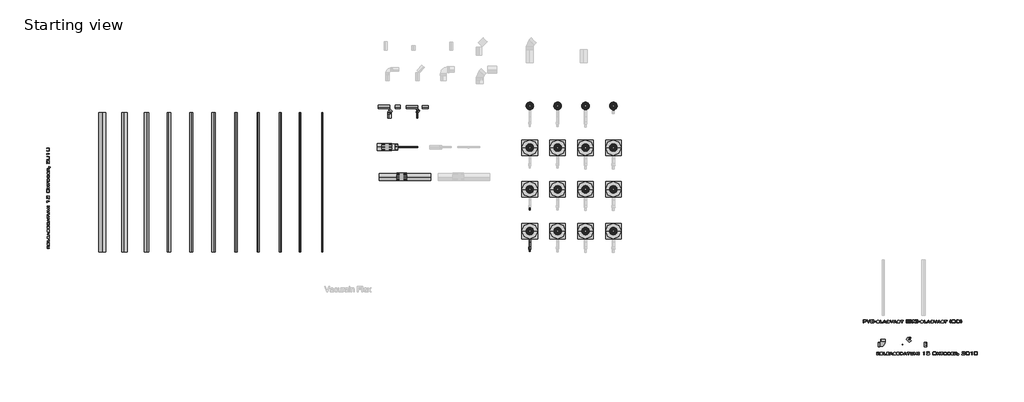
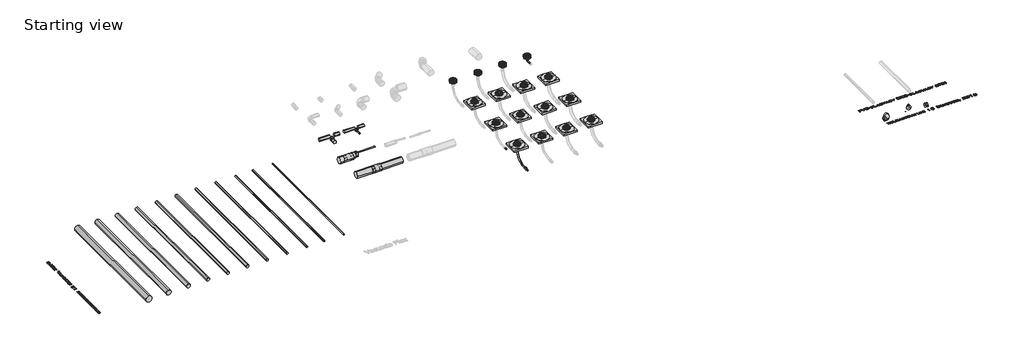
# One storey, part 1 of 3: 25 pipe fittings, 22 pipe segments, 16 sanitary terminals, 4 flow terminals.
"""IFC4 building model written with IfcOpenShell, lengths in millimetres."""

from ifc_helpers import new_model, si_unit, point, frame, frame_2d, origin, place, context, project, spatial, circle_curve, trimmed, segment, composite_curve, outline, extrude, transform, mapped, element, save
from components import flow_terminal_9f99e00c, flow_terminal_27e1411a, flow_terminal_4c22bd95, nested_do_not_use_587135c4, var_4a002968, nested_do_not_use_9b06eb31, nested_do_not_use_2a686885, nested_do_not_use_22d01ddb, nested_do_not_use_a5b8c739, nested_do_not_use_60ab9ebd, nested_do_not_use_eb73af9f, nested_do_not_use_5249c4b3, nested_do_not_use_65d087fa, var_8dcc252d, nested_do_not_use_aba882e9, nested_do_not_use_83d8a7ae, nested_do_not_use_c42076f1, var_65803a14, var_957ecca0, var_add32d6f, var_9cc1c066, var_08b65c3c, nested_do_not_use_e4e1583a, dn40_outlet_50mm_e4824a1d, dn40_outlet_50mm_bcd54826, dn50_outlet_50mm_d0d6c5a2, dn70_outlet_75mm_724d292a

model = new_model("IFC4")

# Units and contexts
model_context = context("Model", 3, world=origin())
ifc_project = project(units=[si_unit("LENGTHUNIT", "METRE", prefix="MILLI")], contexts=[model_context])

# Site, building, storey
site = spatial("IfcSite", under=ifc_project)
building = spatial("IfcBuilding", under=site)
storey = spatial("IfcBuildingStorey", under=building, Name="Starting view", Elevation=0.0)

# Flow terminals
placement = place(None, origin())
flow_terminal_shape = flow_terminal_9f99e00c(model_context)
element("IfcFlowTerminal", 1, ObjectType="ondertitel : PVC Slagvast (OD)", at=placement, inside=storey, context=model_context, shape_type="MappedRepresentation", body=[
    mapped(flow_terminal_shape, transform((21379.1155593, -16805.2403099, 0.0), x_axis=(1.0, 0.0, 0.0), y_axis=(0.0, 1.0, 0.0), z_axis=(0.0, 0.0, 1.0))),
])
flow_terminal_2_shape = flow_terminal_27e1411a(model_context)
element("IfcFlowTerminal", 2, ObjectType="ondertitel : versie", at=placement, inside=storey, context=model_context, shape_type="MappedRepresentation", body=[
    mapped(flow_terminal_2_shape, transform((-9681.3703668, -13814.5792285, 0.0), x_axis=(0.0, 1.0000000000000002, 0.0), y_axis=(-1.0000000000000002, 0.0, 0.0), z_axis=(0.0, 0.0, 1.0))),
])
element("IfcFlowTerminal", 3, ObjectType="ondertitel : versie", at=placement, inside=storey, context=model_context, shape_type="MappedRepresentation", body=[
    mapped(flow_terminal_2_shape, transform((20309.0797924, -17952.0628864, 0.0), x_axis=(1.0, 0.0, 0.0), y_axis=(0.0, 1.0, 0.0), z_axis=(0.0, 0.0, 1.0))),
])
flow_terminal_3_shape = flow_terminal_4c22bd95(model_context)
element("IfcFlowTerminal", 4, ObjectType="ondertitel : PVC Slagvast (DN)", at=placement, inside=storey, context=model_context, shape_type="MappedRepresentation", body=[
    mapped(flow_terminal_3_shape, transform((19809.5993563, -16805.2403099, 0.0), x_axis=(1.0, 0.0, 0.0), y_axis=(0.0, 1.0, 0.0), z_axis=(0.0, 0.0, 1.0))),
])

# Pipe fittings
nested_do_not_use_shape = nested_do_not_use_587135c4(model_context)
element("IfcPipeFitting", 5, ObjectType="NLRS_52_PIF_UN_Vacurain Flex spiebus_SH_Dyka : nested, do not use", at=placement, inside=storey, context=model_context, shape_type="MappedRepresentation", body=[
    mapped(nested_do_not_use_shape, transform((7549.3431339, -12655.1399334, 139.0), x_axis=(0.0, 1.0, 0.0), y_axis=(0.0, 0.0, 1.0), z_axis=(1.0, 0.0, 0.0))),
])
element("IfcPipeFitting", 6, ObjectType="NLRS_52_PIF_UN_Vacurain Flex spiebus_SH_Dyka : nested, do not use", at=placement, inside=storey, context=model_context, shape_type="MappedRepresentation", body=[
    mapped(nested_do_not_use_shape, transform((7549.3431339, -14155.1399334, 139.0), x_axis=(0.0, 1.0, 0.0), y_axis=(0.0, 0.0, 1.0), z_axis=(1.0, 0.0, 0.0))),
])
var_shape = var_4a002968(model_context)
element("IfcPipeFitting", 7, ObjectType="NLRS_52_PIF_UN_Vacurain Flex steekmof_SH_Dyka : nested, do not use", at=placement, inside=storey, context=model_context, shape_type="MappedRepresentation", body=[
    mapped(var_shape, transform((2418.9772962, -10468.7826774, 200.0), x_axis=(1.0, 0.0, 0.0), y_axis=(0.0, 1.0, 0.0), z_axis=(0.0, 0.0, 1.0))),
])
nested_do_not_use_2_shape = nested_do_not_use_9b06eb31(model_context)
element("IfcPipeFitting", 8, ObjectType="NLRS_52_PIF_UN_Vacurain Flex steekmof_SH_Dyka : nested, do not use", at=placement, inside=storey, context=model_context, shape_type="MappedRepresentation", body=[
    mapped(nested_do_not_use_2_shape, transform((7549.3431339, -12697.1399334, 139.0), x_axis=(0.0, 1.0, 0.0), y_axis=(0.0, 0.0, 1.0), z_axis=(1.0, 0.0, 0.0))),
])
element("IfcPipeFitting", 9, ObjectType="NLRS_52_PIF_UN_Vacurain Flex steekmof_SH_Dyka : nested, do not use", at=placement, inside=storey, context=model_context, shape_type="MappedRepresentation", body=[
    mapped(nested_do_not_use_2_shape, transform((7549.3431339, -14197.1399334, 139.0), x_axis=(0.0, 1.0, 0.0), y_axis=(0.0, 0.0, 1.0), z_axis=(1.0, 0.0, 0.0))),
])
nested_do_not_use_3_shape = nested_do_not_use_2a686885(model_context)
element("IfcPipeFitting", 10, ObjectType="NLRS_52_PIF_UN_Vacurain Flex verloop LV_SH_Dyka : nested, do not use", at=placement, inside=storey, context=model_context, shape_type="MappedRepresentation", body=[
    mapped(nested_do_not_use_3_shape, transform((3548.7819135, -9133.4153768, 200.0), x_axis=(0.7071067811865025, 0.7071067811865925, 0.0), y_axis=(-0.7071067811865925, 0.7071067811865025, 0.0), z_axis=(0.0, 0.0, 1.0))),
])
nested_do_not_use_4_shape = nested_do_not_use_22d01ddb(model_context)
element("IfcPipeFitting", 11, ObjectType="NLRS_52_PIF_UN_Vacurain Flex verloop LV_SH_Dyka : nested, do not use", at=placement, inside=storey, context=model_context, shape_type="MappedRepresentation", body=[
    mapped(nested_do_not_use_4_shape, transform((21131.9694851, -17419.1030804, 0.0), x_axis=(-0.7071067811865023, -0.7071067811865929, 0.0), y_axis=(0.707106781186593, -0.7071067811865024, 0.0), z_axis=(0.0, 0.0, 1.0000000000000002))),
])
nested_do_not_use_5_shape = nested_do_not_use_a5b8c739(model_context)
element("IfcPipeFitting", 12, ObjectType="NLRS_52_PIF_UN_Vacurain Flex verloop LV_SH_Dyka : nested, do not use", at=placement, inside=storey, context=model_context, shape_type="MappedRepresentation", body=[
    mapped(nested_do_not_use_5_shape, transform((21735.7625232, -17568.220839, 0.0), x_axis=(-1.0, 0.0, 0.0), y_axis=(0.0, -1.0, 0.0), z_axis=(0.0, 0.0, 1.0))),
])
nested_do_not_use_6_shape = nested_do_not_use_60ab9ebd(model_context)
element("IfcPipeFitting", 13, ObjectType="NLRS_52_PIF_UN_Vacurain Flex verloop LV_SH_Dyka : nested, do not use", at=placement, inside=storey, context=model_context, shape_type="MappedRepresentation", body=[
    mapped(nested_do_not_use_6_shape, transform((2516.4772962, -10468.7826774, 200.0), x_axis=(-1.0, 0.0, 0.0), y_axis=(0.0, -1.0, 0.0), z_axis=(0.0, 0.0, 1.0))),
])
nested_do_not_use_7_shape = nested_do_not_use_eb73af9f(model_context)
element("IfcPipeFitting", 14, ObjectType="NLRS_52_PIF_UN_Vacurain Flex verloop LV_SH_Dyka : nested, do not use", at=placement, inside=storey, context=model_context, shape_type="MappedRepresentation", body=[
    mapped(nested_do_not_use_7_shape, transform((2726.4772962, -10468.7826774, 225.0), x_axis=(-1.0, 0.0, 0.0), y_axis=(0.0, -1.0, 0.0), z_axis=(0.0, 0.0, 1.0))),
])
nested_do_not_use_8_shape = nested_do_not_use_5249c4b3(model_context)
element("IfcPipeFitting", 15, ObjectType="NLRS_52_PIF_UN_Vacurain Flex verloop LV_SH_Dyka : nested, do not use", at=placement, inside=storey, context=model_context, shape_type="MappedRepresentation", body=[
    mapped(nested_do_not_use_8_shape, transform((2757.4772962, -10468.7826774, 292.0), x_axis=(-1.0, 0.0, 0.0), y_axis=(0.0, -1.0, 0.0), z_axis=(0.0, 0.0, 1.0))),
])
nested_do_not_use_9_shape = nested_do_not_use_65d087fa(model_context)
element("IfcPipeFitting", 16, ObjectType="NLRS_52_PIF_UN_Vacurain Flex verloop LV_SH_Dyka : nested, do not use", at=placement, inside=storey, context=model_context, shape_type="MappedRepresentation", body=[
    mapped(nested_do_not_use_9_shape, transform((2742.4772962, -10468.7826774, 282.0), x_axis=(-1.0, 0.0, 0.0), y_axis=(0.0, -1.0, 0.0), z_axis=(0.0, 0.0, 1.0))),
])
var_2_shape = var_8dcc252d(model_context)
element("IfcPipeFitting", 17, ObjectType="NLRS_52_PIF_UN_Vacurain Flex multi reducer_SH_Dyka : nested, do not use", at=placement, inside=storey, context=model_context, shape_type="MappedRepresentation", body=[
    mapped(var_2_shape, transform((3559.3885153, -9122.808775, 200.0), x_axis=(-0.7071067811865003, -0.7071067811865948, 0.0), y_axis=(0.7071067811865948, -0.7071067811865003, 0.0), z_axis=(0.0, 0.0, 1.0))),
])
element("IfcPipeFitting", 18, ObjectType="NLRS_52_PIF_UN_Vacurain Flex multi reducer_SH_Dyka : nested, do not use", at=placement, inside=storey, context=model_context, shape_type="MappedRepresentation", body=[
    mapped(var_2_shape, transform((21121.3628834, -17429.7096821, 0.0), x_axis=(0.7071067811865, 0.7071067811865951, 0.0), y_axis=(-0.7071067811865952, 0.7071067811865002, 0.0), z_axis=(0.0, 0.0, 1.0000000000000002))),
])
nested_do_not_use_10_shape = nested_do_not_use_aba882e9(model_context)
element("IfcPipeFitting", 19, ObjectType="NLRS_52_PIF_UN_Vacurain Flex bocht 1LV_SH_Dyka : nested, do not use", at=placement, inside=storey, context=model_context, shape_type="MappedRepresentation", body=[
    mapped(nested_do_not_use_10_shape, transform((2507.0626134, -9198.4692006, 200.0), x_axis=(-0.7071067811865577, -0.7071067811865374, 0.0), y_axis=(0.7071067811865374, -0.7071067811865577, 0.0), z_axis=(0.0, 0.0, 1.0))),
])
nested_do_not_use_11_shape = nested_do_not_use_83d8a7ae(model_context)
element("IfcPipeFitting", 20, ObjectType="NLRS_52_PIF_UN_Vacurain Flex bocht 1LV_SH_Dyka : nested, do not use", at=placement, inside=storey, context=model_context, shape_type="MappedRepresentation", body=[
    mapped(nested_do_not_use_11_shape, transform((3507.0626134, -9175.1346769, 227.0), x_axis=(-0.7071067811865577, -0.7071067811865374, 0.0), y_axis=(0.7071067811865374, -0.7071067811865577, 0.0), z_axis=(0.0, 0.0, 1.0))),
])
element("IfcPipeFitting", 21, ObjectType="NLRS_52_PIF_UN_Vacurain Flex bocht 1LV_SH_Dyka : nested, do not use", at=placement, inside=storey, context=model_context, shape_type="MappedRepresentation", body=[
    mapped(nested_do_not_use_11_shape, transform((21191.3664548, -17359.7061108, 52.0), x_axis=(0.7071067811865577, 0.7071067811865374, 0.0), y_axis=(-0.7071067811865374, 0.7071067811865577, 0.0), z_axis=(0.0, 0.0, 1.0))),
])
nested_do_not_use_12_shape = nested_do_not_use_c42076f1(model_context)
element("IfcPipeFitting", 22, ObjectType="NLRS_52_PIF_UN_Vacurain Flex bocht 2LV_SH_Dyka : nested, do not use", at=placement, inside=storey, context=model_context, shape_type="MappedRepresentation", body=[
    mapped(nested_do_not_use_12_shape, transform((20235.7532917, -17569.7168248, 0.0), x_axis=(1.0, 0.0, 0.0), y_axis=(0.0, 1.0, 0.0), z_axis=(0.0, 0.0, 1.0))),
])
element("IfcPipeFitting", 23, ObjectType="NLRS_52_PIF_UN_Vacurain Flex steekmof_Dyka : var.", at=placement, inside=storey, context=model_context, shape_type="MappedRepresentation", body=[
    mapped(var_shape, transform((2949.3431339, -11536.7281676, 200.0), x_axis=(1.0, 0.0, 0.0), y_axis=(0.0, 1.0, 0.0), z_axis=(0.0, 0.0, 1.0))),
])
var_3_shape = var_65803a14(model_context)
element("IfcPipeFitting", 24, ObjectType="NLRS_52_PIF_UN_Vacurain Flex multi reducer_Dyka : var.", at=placement, inside=storey, context=model_context, shape_type="MappedRepresentation", body=[
    mapped(var_3_shape, transform((2501.4772962, -10468.7826774, 200.0), x_axis=(1.0, 0.0, 0.0), y_axis=(0.0, 1.0, 0.0), z_axis=(0.0, 0.0, 1.0))),
])
element("IfcPipeFitting", 25, ObjectType="NLRS_52_PIF_UN_Vacurain Flex multi reducer_Dyka : var.", at=placement, inside=storey, context=model_context, shape_type="MappedRepresentation", body=[
    mapped(var_2_shape, transform((21720.7625232, -17568.220839, 0.0), x_axis=(1.0, 0.0, 0.0), y_axis=(0.0, 1.0, 0.0), z_axis=(0.0, 0.0, 1.0))),
])
var_4_shape = var_957ecca0(model_context)
element("IfcPipeFitting", 26, ObjectType="NLRS_52_PIF_UN_Vacurain Flex multi T-stuk_Dyka : var.", at=placement, inside=storey, context=model_context, shape_type="MappedRepresentation", body=[
    mapped(var_4_shape, transform((2678.1824545, -9027.3493596, 200.0), x_axis=(-1.0, 0.0, 0.0), y_axis=(0.0, -1.0, 0.0), z_axis=(0.0, 0.0, 1.0))),
])
var_5_shape = var_add32d6f(model_context)
element("IfcPipeFitting", 27, ObjectType="NLRS_52_PIF_UN_Vacurain Flex multi T-stuk_Dyka : var.", at=placement, inside=storey, context=model_context, shape_type="MappedRepresentation", body=[
    mapped(var_5_shape, transform((3654.8479307, -9027.3493596, 200.0), x_axis=(-1.0, 0.0, 0.0), y_axis=(0.0, -1.0, 0.0), z_axis=(0.0, 0.0, 1.0))),
])
var_6_shape = var_9cc1c066(model_context)
element("IfcPipeFitting", 28, ObjectType="NLRS_52_PIF_UN_Vacurain Flex multi T-stuk_Dyka : var.", at=placement, inside=storey, context=model_context, shape_type="MappedRepresentation", body=[
    mapped(var_6_shape, transform((20981.3557407, -17569.7168248, 0.0), x_axis=(1.0, 0.0, 0.0), y_axis=(0.0, 1.0, 0.0), z_axis=(0.0, 0.0, 1.0))),
])
var_7_shape = var_08b65c3c(model_context)
element("IfcPipeFitting", 29, ObjectType="NLRS_52_PIF_UN_Vacurain Flex multi bocht_Dyka : var.", at=placement, inside=storey, context=model_context, shape_type="MappedRepresentation", body=[
    mapped(var_7_shape, transform((20235.7532917, -17569.7168248, 0.0), x_axis=(1.0, 0.0, 0.0), y_axis=(0.0, 1.0, 0.0), z_axis=(0.0, 0.0, 1.0))),
])

# Pipe segments
element("IfcPipeSegment", 30, ObjectType="NLRS_52_PI_Vacurain Flex PVC buis (DN)_Dyka", at=placement, inside=storey, context=model_context, shape_type="SweptSolid", body=[
    extrude(outline(composite_curve([segment(trimmed(circle_curve(frame_2d((0.0, -7805.8019783)), 125.0), [point((0.0, -7930.8019783))], [point((-125.0, -7805.8019783))], False, "CARTESIAN"), True, "CONTINUOUS"), segment(trimmed(circle_curve(frame_2d((0.0, -7805.8019783)), 125.0), [point((-125.0, -7805.8019783))], [point((0.0, -7680.8019783))], False, "CARTESIAN"), True, "CONTINUOUS"), segment(trimmed(circle_curve(frame_2d((0.0, -7805.8019783)), 125.0), [point((0.0, -7680.8019783))], [point((125.0, -7805.8019783))], False, "CARTESIAN"), True, "CONTINUOUS"), segment(trimmed(circle_curve(frame_2d((0.0, -7805.8019783)), 125.0), [point((125.0, -7805.8019783))], [point((0.0, -7930.8019783))], False, "CARTESIAN"), True, "CONTINUOUS")], self_intersect=False)), frame((0.0, -14232.7082777, 0.0), z_axis=(0.0, 1.0, 0.0), x_axis=(0.0, 0.0, 1.0)), (0.0, 0.0, 1.0), 5000.0),
])
element("IfcPipeSegment", 31, ObjectType="NLRS_52_PI_Vacurain Flex PVC buis (DN)_Dyka", at=placement, inside=storey, context=model_context, shape_type="SweptSolid", body=[
    extrude(outline(composite_curve([segment(trimmed(circle_curve(frame_2d((0.0, -7005.8019783)), 100.0), [point((0.0, -7105.8019783))], [point((-100.0, -7005.8019783))], False, "CARTESIAN"), True, "CONTINUOUS"), segment(trimmed(circle_curve(frame_2d((0.0, -7005.8019783)), 100.0), [point((-100.0, -7005.8019783))], [point((0.0, -6905.8019783))], False, "CARTESIAN"), True, "CONTINUOUS"), segment(trimmed(circle_curve(frame_2d((0.0, -7005.8019783)), 100.0), [point((0.0, -6905.8019783))], [point((100.0, -7005.8019783))], False, "CARTESIAN"), True, "CONTINUOUS"), segment(trimmed(circle_curve(frame_2d((0.0, -7005.8019783)), 100.0), [point((100.0, -7005.8019783))], [point((0.0, -7105.8019783))], False, "CARTESIAN"), True, "CONTINUOUS")], self_intersect=False)), frame((0.0, -14232.7082777, 0.0), z_axis=(0.0, 1.0, 0.0), x_axis=(0.0, 0.0, 1.0)), (0.0, 0.0, 1.0), 5000.0),
])
element("IfcPipeSegment", 32, ObjectType="NLRS_52_PI_Vacurain Flex PVC buis (DN)_Dyka", at=placement, inside=storey, context=model_context, shape_type="SweptSolid", body=[
    extrude(outline(composite_curve([segment(trimmed(circle_curve(frame_2d((0.0, -6205.8019783)), 80.0), [point((0.0, -6285.8019783))], [point((-80.0, -6205.8019783))], False, "CARTESIAN"), True, "CONTINUOUS"), segment(trimmed(circle_curve(frame_2d((0.0, -6205.8019783)), 80.0), [point((-80.0, -6205.8019783))], [point((0.0, -6125.8019783))], False, "CARTESIAN"), True, "CONTINUOUS"), segment(trimmed(circle_curve(frame_2d((0.0, -6205.8019783)), 80.0), [point((0.0, -6125.8019783))], [point((80.0, -6205.8019783))], False, "CARTESIAN"), True, "CONTINUOUS"), segment(trimmed(circle_curve(frame_2d((0.0, -6205.8019783)), 80.0), [point((80.0, -6205.8019783))], [point((0.0, -6285.8019783))], False, "CARTESIAN"), True, "CONTINUOUS")], self_intersect=False)), frame((0.0, -14232.7082777, 0.0), z_axis=(0.0, 1.0, 0.0), x_axis=(0.0, 0.0, 1.0)), (0.0, 0.0, 1.0), 5000.0),
])
element("IfcPipeSegment", 33, ObjectType="NLRS_52_PI_Vacurain Flex PVC buis (DN)_Dyka", at=placement, inside=storey, context=model_context, shape_type="SweptSolid", body=[
    extrude(outline(composite_curve([segment(trimmed(circle_curve(frame_2d((0.0, -5405.8019783)), 62.5), [point((0.0, -5468.3019783))], [point((-62.5, -5405.8019783))], False, "CARTESIAN"), True, "CONTINUOUS"), segment(trimmed(circle_curve(frame_2d((0.0, -5405.8019783)), 62.5), [point((-62.5, -5405.8019783))], [point((0.0, -5343.3019783))], False, "CARTESIAN"), True, "CONTINUOUS"), segment(trimmed(circle_curve(frame_2d((0.0, -5405.8019783)), 62.5), [point((0.0, -5343.3019783))], [point((62.5, -5405.8019783))], False, "CARTESIAN"), True, "CONTINUOUS"), segment(trimmed(circle_curve(frame_2d((0.0, -5405.8019783)), 62.5), [point((62.5, -5405.8019783))], [point((0.0, -5468.3019783))], False, "CARTESIAN"), True, "CONTINUOUS")], self_intersect=False)), frame((0.0, -14232.7082777, 0.0), z_axis=(0.0, 1.0, 0.0), x_axis=(0.0, 0.0, 1.0)), (0.0, 0.0, 1.0), 5000.0),
])
element("IfcPipeSegment", 34, ObjectType="NLRS_52_PI_Vacurain Flex PVC buis (DN)_Dyka", at=placement, inside=storey, context=model_context, shape_type="SweptSolid", body=[
    extrude(outline(composite_curve([segment(trimmed(circle_curve(frame_2d((0.0, -4605.8019783)), 55.0), [point((0.0, -4660.8019783))], [point((-55.0, -4605.8019783))], False, "CARTESIAN"), True, "CONTINUOUS"), segment(trimmed(circle_curve(frame_2d((0.0, -4605.8019783)), 55.0), [point((-55.0, -4605.8019783))], [point((0.0, -4550.8019783))], False, "CARTESIAN"), True, "CONTINUOUS"), segment(trimmed(circle_curve(frame_2d((0.0, -4605.8019783)), 55.0), [point((0.0, -4550.8019783))], [point((55.0, -4605.8019783))], False, "CARTESIAN"), True, "CONTINUOUS"), segment(trimmed(circle_curve(frame_2d((0.0, -4605.8019783)), 55.0), [point((55.0, -4605.8019783))], [point((0.0, -4660.8019783))], False, "CARTESIAN"), True, "CONTINUOUS")], self_intersect=False)), frame((0.0, -14232.7082777, 0.0), z_axis=(0.0, 1.0, 0.0), x_axis=(0.0, 0.0, 1.0)), (0.0, 0.0, 1.0), 5000.0),
])
element("IfcPipeSegment", 35, ObjectType="NLRS_52_PI_Vacurain Flex PVC buis (DN)_Dyka", at=placement, inside=storey, context=model_context, shape_type="SweptSolid", body=[
    extrude(outline(composite_curve([segment(trimmed(circle_curve(frame_2d((0.0, -3005.8019783)), 45.0), [point((0.0, -3050.8019783))], [point((-45.0, -3005.8019783))], False, "CARTESIAN"), True, "CONTINUOUS"), segment(trimmed(circle_curve(frame_2d((0.0, -3005.8019783)), 45.0), [point((-45.0, -3005.8019783))], [point((0.0, -2960.8019783))], False, "CARTESIAN"), True, "CONTINUOUS"), segment(trimmed(circle_curve(frame_2d((0.0, -3005.8019783)), 45.0), [point((0.0, -2960.8019783))], [point((45.0, -3005.8019783))], False, "CARTESIAN"), True, "CONTINUOUS"), segment(trimmed(circle_curve(frame_2d((0.0, -3005.8019783)), 45.0), [point((45.0, -3005.8019783))], [point((0.0, -3050.8019783))], False, "CARTESIAN"), True, "CONTINUOUS")], self_intersect=False)), frame((0.0, -14232.7082777, 0.0), z_axis=(0.0, 1.0, 0.0), x_axis=(0.0, 0.0, 1.0)), (0.0, 0.0, 1.0), 5000.0),
])
element("IfcPipeSegment", 36, ObjectType="NLRS_52_PI_Vacurain Flex PVC buis (DN)_Dyka", at=placement, inside=storey, context=model_context, shape_type="SweptSolid", body=[
    extrude(outline(composite_curve([segment(trimmed(circle_curve(frame_2d((0.0, -2205.8019783)), 37.5), [point((0.0, -2243.3019783))], [point((-37.5, -2205.8019783))], False, "CARTESIAN"), True, "CONTINUOUS"), segment(trimmed(circle_curve(frame_2d((0.0, -2205.8019783)), 37.5), [point((-37.5, -2205.8019783))], [point((0.0, -2168.3019783))], False, "CARTESIAN"), True, "CONTINUOUS"), segment(trimmed(circle_curve(frame_2d((0.0, -2205.8019783)), 37.5), [point((0.0, -2168.3019783))], [point((37.5, -2205.8019783))], False, "CARTESIAN"), True, "CONTINUOUS"), segment(trimmed(circle_curve(frame_2d((0.0, -2205.8019783)), 37.5), [point((37.5, -2205.8019783))], [point((0.0, -2243.3019783))], False, "CARTESIAN"), True, "CONTINUOUS")], self_intersect=False)), frame((0.0, -14232.7082777, 0.0), z_axis=(0.0, 1.0, 0.0), x_axis=(0.0, 0.0, 1.0)), (0.0, 0.0, 1.0), 5000.0),
])
element("IfcPipeSegment", 37, ObjectType="NLRS_52_PI_Vacurain Flex PVC buis (DN)_Dyka", at=placement, inside=storey, context=model_context, shape_type="SweptSolid", body=[
    extrude(outline(composite_curve([segment(trimmed(circle_curve(frame_2d((0.0, -1405.8019783)), 31.5), [point((0.0, -1437.3019783))], [point((-31.5, -1405.8019783))], False, "CARTESIAN"), True, "CONTINUOUS"), segment(trimmed(circle_curve(frame_2d((0.0, -1405.8019783)), 31.5), [point((-31.5, -1405.8019783))], [point((0.0, -1374.3019783))], False, "CARTESIAN"), True, "CONTINUOUS"), segment(trimmed(circle_curve(frame_2d((0.0, -1405.8019783)), 31.5), [point((0.0, -1374.3019783))], [point((31.5, -1405.8019783))], False, "CARTESIAN"), True, "CONTINUOUS"), segment(trimmed(circle_curve(frame_2d((0.0, -1405.8019783)), 31.5), [point((31.5, -1405.8019783))], [point((0.0, -1437.3019783))], False, "CARTESIAN"), True, "CONTINUOUS")], self_intersect=False)), frame((0.0, -14232.7082777, 0.0), z_axis=(0.0, 1.0, 0.0), x_axis=(0.0, 0.0, 1.0)), (0.0, 0.0, 1.0), 5000.0),
])
element("IfcPipeSegment", 38, ObjectType="NLRS_52_PI_Vacurain Flex PVC buis (DN)_Dyka", at=placement, inside=storey, context=model_context, shape_type="SweptSolid", body=[
    extrude(outline(composite_curve([segment(trimmed(circle_curve(frame_2d((0.0, -705.8019783)), 25.0), [point((0.0, -730.8019783))], [point((-25.0, -705.8019783))], False, "CARTESIAN"), True, "CONTINUOUS"), segment(trimmed(circle_curve(frame_2d((0.0, -705.8019783)), 25.0), [point((-25.0, -705.8019783))], [point((0.0, -680.8019783))], False, "CARTESIAN"), True, "CONTINUOUS"), segment(trimmed(circle_curve(frame_2d((0.0, -705.8019783)), 25.0), [point((0.0, -680.8019783))], [point((25.0, -705.8019783))], False, "CARTESIAN"), True, "CONTINUOUS"), segment(trimmed(circle_curve(frame_2d((0.0, -705.8019783)), 25.0), [point((25.0, -705.8019783))], [point((0.0, -730.8019783))], False, "CARTESIAN"), True, "CONTINUOUS")], self_intersect=False)), frame((0.0, -14232.7082777, 0.0), z_axis=(0.0, 1.0, 0.0), x_axis=(0.0, 0.0, 1.0)), (0.0, 0.0, 1.0), 5000.0),
])
element("IfcPipeSegment", 39, ObjectType="NLRS_52_PI_Vacurain Flex PVC buis (DN)_Dyka", at=placement, inside=storey, context=model_context, shape_type="SweptSolid", body=[
    extrude(outline(composite_curve([segment(trimmed(circle_curve(frame_2d((0.0, 94.1980217)), 20.0), [point((0.0, 74.1980217))], [point((-20.0, 94.1980217))], False, "CARTESIAN"), True, "CONTINUOUS"), segment(trimmed(circle_curve(frame_2d((0.0, 94.1980217)), 20.0), [point((-20.0, 94.1980217))], [point((0.0, 114.1980217))], False, "CARTESIAN"), True, "CONTINUOUS"), segment(trimmed(circle_curve(frame_2d((0.0, 94.1980217)), 20.0), [point((0.0, 114.1980217))], [point((20.0, 94.1980217))], False, "CARTESIAN"), True, "CONTINUOUS"), segment(trimmed(circle_curve(frame_2d((0.0, 94.1980217)), 20.0), [point((20.0, 94.1980217))], [point((0.0, 74.1980217))], False, "CARTESIAN"), True, "CONTINUOUS")], self_intersect=False)), frame((0.0, -14232.7082777, 0.0), z_axis=(0.0, 1.0, 0.0), x_axis=(0.0, 0.0, 1.0)), (0.0, 0.0, 1.0), 5000.0),
])
element("IfcPipeSegment", 40, ObjectType="NLRS_52_PI_Vacurain Flex PVC buis (DN)_Dyka", at=placement, inside=storey, context=model_context, shape_type="SweptSolid", body=[
    extrude(outline(composite_curve([segment(trimmed(circle_curve(frame_2d((0.0, -3805.8019783)), 55.0), [point((0.0, -3860.8019783))], [point((-55.0, -3805.8019783))], False, "CARTESIAN"), True, "CONTINUOUS"), segment(trimmed(circle_curve(frame_2d((0.0, -3805.8019783)), 55.0), [point((-55.0, -3805.8019783))], [point((0.0, -3750.8019783))], False, "CARTESIAN"), True, "CONTINUOUS"), segment(trimmed(circle_curve(frame_2d((0.0, -3805.8019783)), 55.0), [point((0.0, -3750.8019783))], [point((55.0, -3805.8019783))], False, "CARTESIAN"), True, "CONTINUOUS"), segment(trimmed(circle_curve(frame_2d((0.0, -3805.8019783)), 55.0), [point((55.0, -3805.8019783))], [point((0.0, -3860.8019783))], False, "CARTESIAN"), True, "CONTINUOUS")], self_intersect=False)), frame((0.0, -14232.7082777, 0.0), z_axis=(0.0, 1.0, 0.0), x_axis=(0.0, 0.0, 1.0)), (0.0, 0.0, 1.0), 5000.0),
])
element("IfcPipeSegment", 41, ObjectType="NLRS_52_PI_Vacurain Flex PVC buis (DN)_Dyka", at=placement, inside=storey, context=model_context, shape_type="SweptSolid", body=[
    extrude(outline(composite_curve([segment(trimmed(circle_curve(frame_2d((-9027.3493596, 200.0)), 62.5), [point((-9089.8493596, 200.0))], [point((-9027.3493596, 262.5))], False, "CARTESIAN"), True, "CONTINUOUS"), segment(trimmed(circle_curve(frame_2d((-9027.3493596, 200.0)), 62.5), [point((-9027.3493596, 262.5))], [point((-8964.8493596, 200.0))], False, "CARTESIAN"), True, "CONTINUOUS"), segment(trimmed(circle_curve(frame_2d((-9027.3493596, 200.0)), 62.5), [point((-8964.8493596, 200.0))], [point((-9027.3493596, 137.5))], False, "CARTESIAN"), True, "CONTINUOUS"), segment(trimmed(circle_curve(frame_2d((-9027.3493596, 200.0)), 62.5), [point((-9027.3493596, 137.5))], [point((-9089.8493596, 200.0))], False, "CARTESIAN"), True, "CONTINUOUS")], self_intersect=False)), frame((2710.1824545, 0.0, 0.0), z_axis=(1.0, 0.0, 0.0), x_axis=(0.0, 1.0, 0.0)), (0.0, 0.0, 1.0), 196.880159),
])
element("IfcPipeSegment", 42, ObjectType="NLRS_52_PI_Vacurain Flex PVC buis (DN)_Dyka", at=placement, inside=storey, context=model_context, shape_type="SweptSolid", body=[
    extrude(outline(composite_curve([segment(trimmed(circle_curve(frame_2d((200.0, 2507.0626134)), 62.5), [point((200.0, 2444.5626134))], [point((137.5, 2507.0626134))], False, "CARTESIAN"), True, "CONTINUOUS"), segment(trimmed(circle_curve(frame_2d((200.0, 2507.0626134)), 62.5), [point((137.5, 2507.0626134))], [point((200.0, 2569.5626134))], False, "CARTESIAN"), True, "CONTINUOUS"), segment(trimmed(circle_curve(frame_2d((200.0, 2507.0626134)), 62.5), [point((200.0, 2569.5626134))], [point((262.5, 2507.0626134))], False, "CARTESIAN"), True, "CONTINUOUS"), segment(trimmed(circle_curve(frame_2d((200.0, 2507.0626134)), 62.5), [point((262.5, 2507.0626134))], [point((200.0, 2444.5626134))], False, "CARTESIAN"), True, "CONTINUOUS")], self_intersect=False)), frame((0.0, -9427.3493596, 0.0), z_axis=(0.0, 1.0, 0.0), x_axis=(0.0, 0.0, 1.0)), (0.0, 0.0, 1.0), 198.880159),
])
element("IfcPipeSegment", 43, ObjectType="NLRS_52_PI_Vacurain Flex PVC buis (DN)_Dyka", at=placement, inside=storey, context=model_context, shape_type="SweptSolid", body=[
    extrude(outline(composite_curve([segment(trimmed(circle_curve(frame_2d((-9027.3493596, 200.0)), 62.5), [point((-9089.8493596, 200.0))], [point((-9027.3493596, 262.5))], False, "CARTESIAN"), True, "CONTINUOUS"), segment(trimmed(circle_curve(frame_2d((-9027.3493596, 200.0)), 62.5), [point((-9027.3493596, 262.5))], [point((-8964.8493596, 200.0))], False, "CARTESIAN"), True, "CONTINUOUS"), segment(trimmed(circle_curve(frame_2d((-9027.3493596, 200.0)), 62.5), [point((-8964.8493596, 200.0))], [point((-9027.3493596, 137.5))], False, "CARTESIAN"), True, "CONTINUOUS"), segment(trimmed(circle_curve(frame_2d((-9027.3493596, 200.0)), 62.5), [point((-9027.3493596, 137.5))], [point((-9089.8493596, 200.0))], False, "CARTESIAN"), True, "CONTINUOUS")], self_intersect=False)), frame((2107.0626134, 0.0, 0.0), z_axis=(1.0, 0.0, 0.0), x_axis=(0.0, 1.0, 0.0)), (0.0, 0.0, 1.0), 418.119841),
])
element("IfcPipeSegment", 44, ObjectType="NLRS_52_PI_Vacurain Flex PVC buis (DN)_Dyka", at=placement, inside=storey, context=model_context, shape_type="SweptSolid", body=[
    extrude(outline(composite_curve([segment(trimmed(circle_curve(frame_2d((-9027.3493596, 200.0)), 55.0), [point((-9082.3493596, 200.0))], [point((-9027.3493596, 255.0))], False, "CARTESIAN"), True, "CONTINUOUS"), segment(trimmed(circle_curve(frame_2d((-9027.3493596, 200.0)), 55.0), [point((-9027.3493596, 255.0))], [point((-8972.3493596, 200.0))], False, "CARTESIAN"), True, "CONTINUOUS"), segment(trimmed(circle_curve(frame_2d((-9027.3493596, 200.0)), 55.0), [point((-8972.3493596, 200.0))], [point((-9027.3493596, 145.0))], False, "CARTESIAN"), True, "CONTINUOUS"), segment(trimmed(circle_curve(frame_2d((-9027.3493596, 200.0)), 55.0), [point((-9027.3493596, 145.0))], [point((-9082.3493596, 200.0))], False, "CARTESIAN"), True, "CONTINUOUS")], self_intersect=False)), frame((3683.8479307, 0.0, 0.0), z_axis=(1.0, 0.0, 0.0), x_axis=(0.0, 1.0, 0.0)), (0.0, 0.0, 1.0), 223.2146827),
])
element("IfcPipeSegment", 45, ObjectType="NLRS_52_PI_Vacurain Flex PVC buis (DN)_Dyka", at=placement, inside=storey, context=model_context, shape_type="SweptSolid", body=[
    extrude(outline(composite_curve([segment(trimmed(circle_curve(frame_2d((227.0, 3507.0626134)), 25.0), [point((227.0, 3482.0626134))], [point((202.0, 3507.0626134))], False, "CARTESIAN"), True, "CONTINUOUS"), segment(trimmed(circle_curve(frame_2d((227.0, 3507.0626134)), 25.0), [point((202.0, 3507.0626134))], [point((227.0, 3532.0626134))], False, "CARTESIAN"), True, "CONTINUOUS"), segment(trimmed(circle_curve(frame_2d((227.0, 3507.0626134)), 25.0), [point((227.0, 3532.0626134))], [point((252.0, 3507.0626134))], False, "CARTESIAN"), True, "CONTINUOUS"), segment(trimmed(circle_curve(frame_2d((227.0, 3507.0626134)), 25.0), [point((252.0, 3507.0626134))], [point((227.0, 3482.0626134))], False, "CARTESIAN"), True, "CONTINUOUS")], self_intersect=False)), frame((0.0, -9427.3493596, 0.0), z_axis=(0.0, 1.0, 0.0), x_axis=(0.0, 0.0, 1.0)), (0.0, 0.0, 1.0), 238.2146827),
])
element("IfcPipeSegment", 46, ObjectType="NLRS_52_PI_Vacurain Flex PVC buis (DN)_Dyka", at=placement, inside=storey, context=model_context, shape_type="SweptSolid", body=[
    extrude(outline(composite_curve([segment(trimmed(circle_curve(frame_2d((-9027.3493596, 200.0)), 55.0), [point((-9082.3493596, 200.0))], [point((-9027.3493596, 255.0))], False, "CARTESIAN"), True, "CONTINUOUS"), segment(trimmed(circle_curve(frame_2d((-9027.3493596, 200.0)), 55.0), [point((-9027.3493596, 255.0))], [point((-8972.3493596, 200.0))], False, "CARTESIAN"), True, "CONTINUOUS"), segment(trimmed(circle_curve(frame_2d((-9027.3493596, 200.0)), 55.0), [point((-8972.3493596, 200.0))], [point((-9027.3493596, 145.0))], False, "CARTESIAN"), True, "CONTINUOUS"), segment(trimmed(circle_curve(frame_2d((-9027.3493596, 200.0)), 55.0), [point((-9027.3493596, 145.0))], [point((-9082.3493596, 200.0))], False, "CARTESIAN"), True, "CONTINUOUS")], self_intersect=False)), frame((3107.0626134, 0.0, 0.0), z_axis=(1.0, 0.0, 0.0), x_axis=(0.0, 1.0, 0.0)), (0.0, 0.0, 1.0), 412.7853173),
])
element("IfcPipeSegment", 47, ObjectType="NLRS_52_PI_Vacurain Flex PVC buis (DN)_Dyka", at=placement, inside=storey, context=model_context, shape_type="SweptSolid", body=[
    extrude(outline(composite_curve([segment(trimmed(circle_curve(frame_2d((-10468.7826774, 200.0)), 125.0), [point((-10343.7826774, 200.0))], [point((-10468.7826774, 75.0))], False, "CARTESIAN"), True, "CONTINUOUS"), segment(trimmed(circle_curve(frame_2d((-10468.7826774, 200.0)), 125.0), [point((-10468.7826774, 75.0))], [point((-10593.7826774, 200.0))], False, "CARTESIAN"), True, "CONTINUOUS"), segment(trimmed(circle_curve(frame_2d((-10468.7826774, 200.0)), 125.0), [point((-10593.7826774, 200.0))], [point((-10468.7826774, 325.0))], False, "CARTESIAN"), True, "CONTINUOUS"), segment(trimmed(circle_curve(frame_2d((-10468.7826774, 200.0)), 125.0), [point((-10468.7826774, 325.0))], [point((-10343.7826774, 200.0))], False, "CARTESIAN"), True, "CONTINUOUS")], self_intersect=False)), frame((2067.4772962, 0.0, 0.0), z_axis=(1.0, 0.0, 0.0), x_axis=(0.0, 1.0, 0.0)), (0.0, 0.0, 1.0), 269.0),
])
element("IfcPipeSegment", 48, ObjectType="NLRS_52_PI_Vacurain Flex PVC buis (DN)_Dyka", at=placement, inside=storey, context=model_context, shape_type="SweptSolid", body=[
    extrude(outline(composite_curve([segment(trimmed(circle_curve(frame_2d((-11536.7281676, 200.0)), 125.0), [point((-11661.7281676, 200.0))], [point((-11536.7281676, 325.0))], False, "CARTESIAN"), True, "CONTINUOUS"), segment(trimmed(circle_curve(frame_2d((-11536.7281676, 200.0)), 125.0), [point((-11536.7281676, 325.0))], [point((-11411.7281676, 200.0))], False, "CARTESIAN"), True, "CONTINUOUS"), segment(trimmed(circle_curve(frame_2d((-11536.7281676, 200.0)), 125.0), [point((-11411.7281676, 200.0))], [point((-11536.7281676, 75.0))], False, "CARTESIAN"), True, "CONTINUOUS"), segment(trimmed(circle_curve(frame_2d((-11536.7281676, 200.0)), 125.0), [point((-11536.7281676, 75.0))], [point((-11661.7281676, 200.0))], False, "CARTESIAN"), True, "CONTINUOUS")], self_intersect=False)), frame((2149.3431339, 0.0, 0.0), z_axis=(1.0, 0.0, 0.0), x_axis=(0.0, 1.0, 0.0)), (0.0, 0.0, 1.0), 717.5),
])
element("IfcPipeSegment", 49, ObjectType="NLRS_52_PI_Vacurain Flex PVC buis (DN)_Dyka", at=placement, inside=storey, context=model_context, shape_type="SweptSolid", body=[
    extrude(outline(composite_curve([segment(trimmed(circle_curve(frame_2d((-11536.7281676, 200.0)), 125.0), [point((-11661.7281676, 200.0))], [point((-11536.7281676, 325.0))], False, "CARTESIAN"), True, "CONTINUOUS"), segment(trimmed(circle_curve(frame_2d((-11536.7281676, 200.0)), 125.0), [point((-11536.7281676, 325.0))], [point((-11411.7281676, 200.0))], False, "CARTESIAN"), True, "CONTINUOUS"), segment(trimmed(circle_curve(frame_2d((-11536.7281676, 200.0)), 125.0), [point((-11411.7281676, 200.0))], [point((-11536.7281676, 75.0))], False, "CARTESIAN"), True, "CONTINUOUS"), segment(trimmed(circle_curve(frame_2d((-11536.7281676, 200.0)), 125.0), [point((-11536.7281676, 75.0))], [point((-11661.7281676, 200.0))], False, "CARTESIAN"), True, "CONTINUOUS")], self_intersect=False)), frame((3031.8431339, 0.0, 0.0), z_axis=(1.0, 0.0, 0.0), x_axis=(0.0, 1.0, 0.0)), (0.0, 0.0, 1.0), 960.0),
])
element("IfcPipeSegment", 50, ObjectType="NLRS_52_PI_Vacurain Flex PVC buis (DN)_Dyka", at=placement, inside=storey, context=model_context, shape_type="SweptSolid", body=[
    extrude(outline(composite_curve([segment(trimmed(circle_curve(frame_2d((-10468.7826774, 292.0)), 20.0), [point((-10488.7826774, 292.0))], [point((-10468.7826774, 312.0))], False, "CARTESIAN"), True, "CONTINUOUS"), segment(trimmed(circle_curve(frame_2d((-10468.7826774, 292.0)), 20.0), [point((-10468.7826774, 312.0))], [point((-10448.7826774, 292.0))], False, "CARTESIAN"), True, "CONTINUOUS"), segment(trimmed(circle_curve(frame_2d((-10468.7826774, 292.0)), 20.0), [point((-10448.7826774, 292.0))], [point((-10468.7826774, 272.0))], False, "CARTESIAN"), True, "CONTINUOUS"), segment(trimmed(circle_curve(frame_2d((-10468.7826774, 292.0)), 20.0), [point((-10468.7826774, 272.0))], [point((-10488.7826774, 292.0))], False, "CARTESIAN"), True, "CONTINUOUS")], self_intersect=False)), frame((2749.4772962, 0.0, 0.0), z_axis=(1.0, 0.0, 0.0), x_axis=(0.0, 1.0, 0.0)), (0.0, 0.0, 1.0), 772.5),
])
nested_do_not_use_13_shape = nested_do_not_use_e4e1583a(model_context)
element("IfcPipeSegment", 51, ObjectType="NLRS_52_PIF_UN_Vacurain Flex slang_SH_Dyka : nested, do not use", at=placement, inside=storey, context=model_context, shape_type="MappedRepresentation", body=[
    mapped(nested_do_not_use_13_shape, transform((7549.3431339, -13489.1399334, 639.0), x_axis=(0.0, 1.0, 0.0), y_axis=(0.0, 0.0, 1.0), z_axis=(1.0, 0.0, 0.0))),
])

# Sanitary terminals
dn40_outlet_50mm_shape = dn40_outlet_50mm_e4824a1d(model_context)
element("IfcSanitaryTerminal", 52, ObjectType="NLRS_52_PF_UN_Vacurain Flex trechter tbv PVC_Dyka : DN40 - Outlet 50mm", at=placement, inside=storey, context=model_context, shape_type="MappedRepresentation", body=[
    mapped(dn40_outlet_50mm_shape, transform((7549.3431339, -13489.1399334, 800.0), x_axis=(1.0, 0.0, 0.0), y_axis=(0.0, 1.0, 0.0), z_axis=(0.0, 0.0, 1.0))),
])
dn40_outlet_50mm_2_shape = dn40_outlet_50mm_bcd54826(model_context)
element("IfcSanitaryTerminal", 53, ObjectType="NLRS_52_PF_UN_Vacurain Flex flenstrechter_Dyka : DN40 - Outlet 50mm", at=placement, inside=storey, context=model_context, shape_type="MappedRepresentation", body=[
    mapped(dn40_outlet_50mm_2_shape, transform((7549.3431339, -8989.1399334, 800.0), x_axis=(1.0, 0.0, 0.0), y_axis=(0.0, 1.0, 0.0), z_axis=(0.0, 0.0, 1.0))),
])
element("IfcSanitaryTerminal", 54, ObjectType="NLRS_52_PF_UN_Vacurain Flex trechter tbv bitumen_Dyka : DN40 - Outlet 50mm", at=placement, inside=storey, context=model_context, shape_type="MappedRepresentation", body=[
    mapped(dn40_outlet_50mm_shape, transform((7549.3431339, -10489.1399334, 800.0), x_axis=(1.0, 0.0, 0.0), y_axis=(0.0, 1.0, 0.0), z_axis=(0.0, 0.0, 1.0))),
])
element("IfcSanitaryTerminal", 55, ObjectType="NLRS_52_PF_UN_Vacurain Flex trechter tbv kunststof_Dyka : DN40 - Outlet 50mm", at=placement, inside=storey, context=model_context, shape_type="MappedRepresentation", body=[
    mapped(dn40_outlet_50mm_shape, transform((7549.3431339, -11989.1399334, 800.0), x_axis=(1.0, 0.0, 0.0), y_axis=(0.0, 1.0, 0.0), z_axis=(0.0, 0.0, 1.0))),
])
element("IfcSanitaryTerminal", 56, ObjectType="NLRS_52_PF_UN_Vacurain Flex trechter tbv PVC_Dyka : DN50 - Outlet 50mm", at=placement, inside=storey, context=model_context, shape_type="MappedRepresentation", body=[
    mapped(dn40_outlet_50mm_shape, transform((8549.7193273, -13489.1399334, 800.0), x_axis=(1.0, 0.0, 0.0), y_axis=(0.0, 1.0, 0.0), z_axis=(0.0, 0.0, 1.0))),
])
element("IfcSanitaryTerminal", 57, ObjectType="NLRS_52_PF_UN_Vacurain Flex flenstrechter_Dyka : DN50 - Outlet 50mm", at=placement, inside=storey, context=model_context, shape_type="MappedRepresentation", body=[
    mapped(dn40_outlet_50mm_2_shape, transform((8549.7193273, -8989.1399334, 800.0), x_axis=(1.0, 0.0, 0.0), y_axis=(0.0, 1.0, 0.0), z_axis=(0.0, 0.0, 1.0))),
])
element("IfcSanitaryTerminal", 58, ObjectType="NLRS_52_PF_UN_Vacurain Flex trechter tbv bitumen_Dyka : DN50 - Outlet 50mm", at=placement, inside=storey, context=model_context, shape_type="MappedRepresentation", body=[
    mapped(dn40_outlet_50mm_shape, transform((8549.7193273, -10489.1399334, 800.0), x_axis=(1.0, 0.0, 0.0), y_axis=(0.0, 1.0, 0.0), z_axis=(0.0, 0.0, 1.0))),
])
element("IfcSanitaryTerminal", 59, ObjectType="NLRS_52_PF_UN_Vacurain Flex trechter tbv kunststof_Dyka : DN50 - Outlet 50mm", at=placement, inside=storey, context=model_context, shape_type="MappedRepresentation", body=[
    mapped(dn40_outlet_50mm_shape, transform((8549.7193273, -11989.1399334, 800.0), x_axis=(1.0, 0.0, 0.0), y_axis=(0.0, 1.0, 0.0), z_axis=(0.0, 0.0, 1.0))),
])
dn50_outlet_50mm_shape = dn50_outlet_50mm_d0d6c5a2(model_context)
element("IfcSanitaryTerminal", 60, ObjectType="NLRS_52_PF_UN_Vacurain Flex flenstrechter_Dyka : DN50 - Outlet 50mm", at=placement, inside=storey, context=model_context, shape_type="MappedRepresentation", body=[
    mapped(dn50_outlet_50mm_shape, transform((10549.7193273, -8989.1399334, 800.0), x_axis=(1.0, 0.0, 0.0), y_axis=(0.0, 1.0, 0.0), z_axis=(0.0, 0.0, 1.0))),
])
element("IfcSanitaryTerminal", 61, ObjectType="NLRS_52_PF_UN_Vacurain Flex trechter tbv PVC_Dyka : DN60 - Outlet 50mm", at=placement, inside=storey, context=model_context, shape_type="MappedRepresentation", body=[
    mapped(dn40_outlet_50mm_shape, transform((9549.3431339, -13489.1399334, 800.0), x_axis=(1.0, 0.0, 0.0), y_axis=(0.0, 1.0, 0.0), z_axis=(0.0, 0.0, 1.0))),
])
element("IfcSanitaryTerminal", 62, ObjectType="NLRS_52_PF_UN_Vacurain Flex flenstrechter_Dyka : DN60 - Outlet 50mm", at=placement, inside=storey, context=model_context, shape_type="MappedRepresentation", body=[
    mapped(dn40_outlet_50mm_2_shape, transform((9549.3431339, -8989.1399334, 800.0), x_axis=(1.0, 0.0, 0.0), y_axis=(0.0, 1.0, 0.0), z_axis=(0.0, 0.0, 1.0))),
])
element("IfcSanitaryTerminal", 63, ObjectType="NLRS_52_PF_UN_Vacurain Flex trechter tbv bitumen_Dyka : DN60 - Outlet 50mm", at=placement, inside=storey, context=model_context, shape_type="MappedRepresentation", body=[
    mapped(dn40_outlet_50mm_shape, transform((9549.3431339, -10489.1399334, 800.0), x_axis=(1.0, 0.0, 0.0), y_axis=(0.0, 1.0, 0.0), z_axis=(0.0, 0.0, 1.0))),
])
element("IfcSanitaryTerminal", 64, ObjectType="NLRS_52_PF_UN_Vacurain Flex trechter tbv kunststof_Dyka : DN60 - Outlet 50mm", at=placement, inside=storey, context=model_context, shape_type="MappedRepresentation", body=[
    mapped(dn40_outlet_50mm_shape, transform((9549.3431339, -11989.1399334, 800.0), x_axis=(1.0, 0.0, 0.0), y_axis=(0.0, 1.0, 0.0), z_axis=(0.0, 0.0, 1.0))),
])
dn70_outlet_75mm_shape = dn70_outlet_75mm_724d292a(model_context)
element("IfcSanitaryTerminal", 65, ObjectType="NLRS_52_PF_UN_Vacurain Flex trechter tbv PVC_Dyka : DN70 - Outlet 75mm", at=placement, inside=storey, context=model_context, shape_type="MappedRepresentation", body=[
    mapped(dn70_outlet_75mm_shape, transform((10549.3431339, -13489.1399334, 800.0), x_axis=(1.0, 0.0, 0.0), y_axis=(0.0, 1.0, 0.0), z_axis=(0.0, 0.0, 1.0))),
])
element("IfcSanitaryTerminal", 66, ObjectType="NLRS_52_PF_UN_Vacurain Flex trechter tbv bitumen_Dyka : DN70 - Outlet 75mm", at=placement, inside=storey, context=model_context, shape_type="MappedRepresentation", body=[
    mapped(dn70_outlet_75mm_shape, transform((10549.3431339, -10489.1399334, 800.0), x_axis=(1.0, 0.0, 0.0), y_axis=(0.0, 1.0, 0.0), z_axis=(0.0, 0.0, 1.0))),
])
element("IfcSanitaryTerminal", 67, ObjectType="NLRS_52_PF_UN_Vacurain Flex trechter tbv kunststof_Dyka : DN70 - Outlet 75mm", at=placement, inside=storey, context=model_context, shape_type="MappedRepresentation", body=[
    mapped(dn70_outlet_75mm_shape, transform((10549.3431339, -11989.1399334, 800.0), x_axis=(1.0, 0.0, 0.0), y_axis=(0.0, 1.0, 0.0), z_axis=(0.0, 0.0, 1.0))),
])

save(model, "model.ifc")
